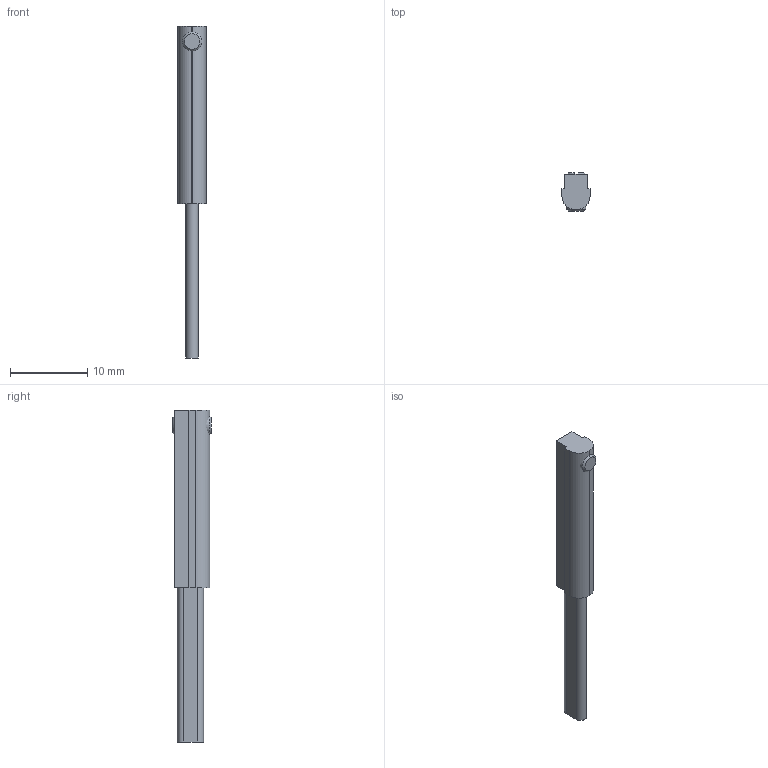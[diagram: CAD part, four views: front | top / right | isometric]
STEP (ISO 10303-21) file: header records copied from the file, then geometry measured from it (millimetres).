
FILE_DESCRIPTION (( 'STEP AP214' ), '1' );
FILE_NAME ('7707.STEP', '2021-04-29T17:32:42', ( '' ), ( '' ), 'SwSTEP 2.0', 'SolidWorks 2020', '' );
FILE_SCHEMA (( 'AUTOMOTIVE_DESIGN' ));
Length unit declared in the file: millimetre
Products named in the file (1): 7707
Bounding box: 3.65 x 5 x 43 mm (x, y, z)
Volume: 437.8 mm3; surface area: 600.9 mm2
Topology: 2 solids, 2 shells, 29 faces, 69 edges, 46 vertices
Faces by surface type: plane 20, cylinder 6, cone 3
Full cylindrical faces by diameter (mm): 2.5 x2
Entity records: 910 total; most frequent: CARTESIAN_POINT 150, DIRECTION 138, ORIENTED_EDGE 128, EDGE_CURVE 64, AXIS2_PLACEMENT_3D 48, VERTEX_POINT 44, LINE 42, VECTOR 42
